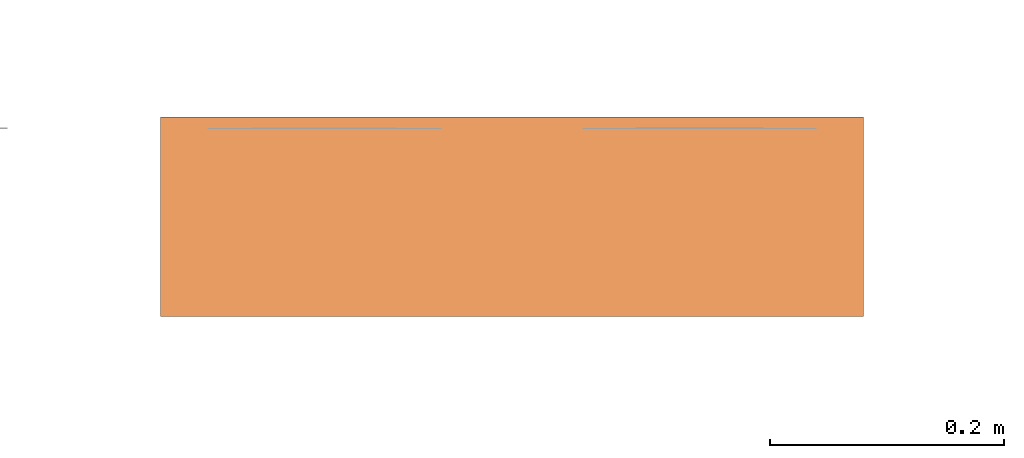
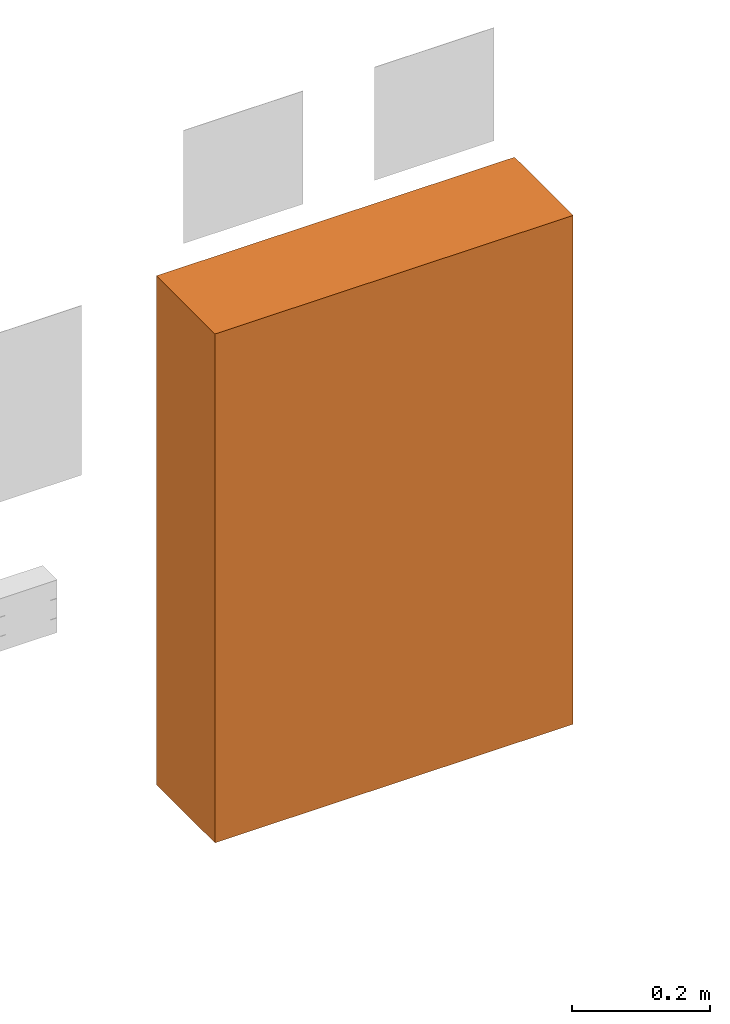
# One storey, part 7 of 119: 1 proxy.
"""IFC2X3 building model written with IfcOpenShell, lengths in metres."""

from ifc_helpers import new_model, entity, si_unit, converted_unit, derived_unit, direction, frame, origin, place, context, subcontext, project, spatial, face_set, surface_model, source, transform, mapped, material, material_list, type_object, type_shapes, element, save


model = new_model("IFC2X3")

# Units and contexts
model_context = context("Model", 3, precision=1e-05, world=origin(), true_north=direction((6.12303176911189e-17, 1.0)))
body_context = subcontext(model_context, "Body", "Model", "MODEL_VIEW")
ifc_project = project(units=[si_unit("LENGTHUNIT", "METRE"), si_unit("AREAUNIT", "SQUARE_METRE"), si_unit("VOLUMEUNIT", "CUBIC_METRE"), converted_unit("PLANEANGLEUNIT", "DEGREE", entity("IfcRatioMeasure", 0.0174532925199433), si_unit("PLANEANGLEUNIT", "RADIAN"), dimensions=[0, 0, 0, 0, 0, 0, 0]), si_unit("MASSUNIT", "GRAM", prefix="KILO"), derived_unit("MASSDENSITYUNIT", [(si_unit("MASSUNIT", "GRAM", prefix="KILO"), 1), (si_unit("LENGTHUNIT", "METRE"), -3)]), derived_unit("MOMENTOFINERTIAUNIT", [(si_unit("LENGTHUNIT", "METRE"), 4)]), si_unit("TIMEUNIT", "SECOND"), si_unit("FREQUENCYUNIT", "HERTZ"), si_unit("THERMODYNAMICTEMPERATUREUNIT", "DEGREE_CELSIUS"), derived_unit("THERMALTRANSMITTANCEUNIT", [(si_unit("MASSUNIT", "GRAM", prefix="KILO"), 1), (si_unit("THERMODYNAMICTEMPERATUREUNIT", "KELVIN"), -1), (si_unit("TIMEUNIT", "SECOND"), -3)]), derived_unit("VOLUMETRICFLOWRATEUNIT", [(si_unit("LENGTHUNIT", "METRE"), 3), (si_unit("TIMEUNIT", "SECOND"), -1)]), si_unit("ELECTRICCURRENTUNIT", "AMPERE"), si_unit("ELECTRICVOLTAGEUNIT", "VOLT"), si_unit("POWERUNIT", "WATT"), si_unit("FORCEUNIT", "NEWTON", prefix="KILO"), si_unit("ILLUMINANCEUNIT", "LUX"), si_unit("LUMINOUSFLUXUNIT", "LUMEN"), si_unit("LUMINOUSINTENSITYUNIT", "CANDELA"), derived_unit("USERDEFINED", [(si_unit("MASSUNIT", "GRAM", prefix="KILO"), -1), (si_unit("LENGTHUNIT", "METRE"), -2), (si_unit("TIMEUNIT", "SECOND"), 3), (si_unit("LUMINOUSFLUXUNIT", "LUMEN"), 1)]), derived_unit("LINEARVELOCITYUNIT", [(si_unit("LENGTHUNIT", "METRE"), 1), (si_unit("TIMEUNIT", "SECOND"), -1)]), si_unit("PRESSUREUNIT", "PASCAL"), derived_unit("USERDEFINED", [(si_unit("LENGTHUNIT", "METRE"), -2), (si_unit("MASSUNIT", "GRAM", prefix="KILO"), 1), (si_unit("TIMEUNIT", "SECOND"), -2)]), derived_unit("LINEARFORCEUNIT", [(si_unit("MASSUNIT", "GRAM", prefix="KILO"), 1), (si_unit("LENGTHUNIT", "METRE"), 1), (si_unit("TIMEUNIT", "SECOND"), -2), (si_unit("LENGTHUNIT", "METRE"), -1)]), derived_unit("PLANARFORCEUNIT", [(si_unit("MASSUNIT", "GRAM", prefix="KILO"), 1), (si_unit("LENGTHUNIT", "METRE"), 1), (si_unit("TIMEUNIT", "SECOND"), -2), (si_unit("LENGTHUNIT", "METRE"), -2)])], contexts=[model_context])

# Site, building, storey
site_placement = place(None, origin())
site = spatial("IfcSite", under=ifc_project, at=site_placement, Name="Default", CompositionType="ELEMENT")
building_placement = place(site_placement, origin())
building = spatial("IfcBuilding", under=site, at=building_placement, CompositionType="ELEMENT")
storey_placement = place(building_placement, origin())
storey = spatial("IfcBuildingStorey", under=building, at=storey_placement, Name="PAV. 01 - TÉRREO", CompositionType="ELEMENT", Elevation=0.0)

# Proxy
ifc_material_1 = material(Name="Pintura branca")
ifc_material_2 = material(Name="Vidro")
ifc_material_3 = material(Name="Pintura Metalica Vermelha")
ifc_material_list_1 = material_list([ifc_material_1, ifc_material_2, ifc_material_3])
ifc_material_list_2 = material_list([ifc_material_3, ifc_material_1])
building_element_proxy_type = type_object("IfcBuildingElementProxyType", Name="Equipamento - E07 - Hidrante:Hidrante simples embutido - requinte 2.1/2 - 38 mm - 30m", PredefinedType="NOTDEFINED", material=ifc_material_list_2)
shared_shape = source(origin(), body_context, "Body", "SurfaceModel", [
    surface_model("IfcFaceBasedSurfaceModel", [(0.234125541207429, 0.00999999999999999, 0.69041529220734), (0.236636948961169, 0.00999999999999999, 0.69041529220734), (0.236636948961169, 0.00999999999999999, 0.710506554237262), (0.234125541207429, 0.00999999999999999, 0.710506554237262), (0.241659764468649, 0.00999999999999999, 0.69041529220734), (0.244171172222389, 0.00999999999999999, 0.69041529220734), (0.244171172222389, 0.00999999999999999, 0.706337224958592), (0.254668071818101, 0.00999999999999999, 0.69041529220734), (0.257356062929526, 0.00999999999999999, 0.69041529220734), (0.257356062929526, 0.00999999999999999, 0.710506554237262), (0.254844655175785, 0.00999999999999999, 0.710506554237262), (0.254844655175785, 0.00999999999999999, 0.69458952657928), (0.244347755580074, 0.00999999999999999, 0.710506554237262), (0.241659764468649, 0.00999999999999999, 0.710506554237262), (0.27587769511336, 0.00999999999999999, 0.697557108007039), (0.273746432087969, 0.00999999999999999, 0.693858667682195), (0.269903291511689, 0.00999999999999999, 0.692612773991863), (0.266437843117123, 0.00999999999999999, 0.693527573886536), (0.264078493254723, 0.00999999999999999, 0.696291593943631), (0.263320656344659, 0.00999999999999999, 0.70061788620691), (0.263960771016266, 0.00999999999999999, 0.704350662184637), (0.2661803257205, 0.00999999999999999, 0.707234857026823), (0.270109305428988, 0.00999999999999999, 0.708309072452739), (0.273503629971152, 0.00999999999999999, 0.707340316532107), (0.275563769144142, 0.00999999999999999, 0.704252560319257), (0.278075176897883, 0.00999999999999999, 0.704850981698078), (0.275237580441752, 0.00999999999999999, 0.709255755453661), (0.270207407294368, 0.00999999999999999, 0.71082048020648), (0.265380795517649, 0.00999999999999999, 0.709611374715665), (0.261998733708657, 0.00999999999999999, 0.706072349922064), (0.260809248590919, 0.00999999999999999, 0.700612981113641), (0.261861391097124, 0.00999999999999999, 0.69524190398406), (0.264927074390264, 0.00999999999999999, 0.69142083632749), (0.270153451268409, 0.00999999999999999, 0.690101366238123), (0.275411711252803, 0.00999999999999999, 0.691845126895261), (0.2783891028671, 0.00999999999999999, 0.696909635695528), (0.289376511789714, 0.00999999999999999, 0.714273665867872), (0.29110310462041, 0.00999999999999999, 0.711762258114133), (0.29361451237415, 0.00999999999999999, 0.711762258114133), (0.290632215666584, 0.00999999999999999, 0.715529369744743), (0.288120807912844, 0.00999999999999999, 0.715529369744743), (0.285452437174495, 0.00999999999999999, 0.711762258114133), (0.287963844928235, 0.00999999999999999, 0.711762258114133), (0.300363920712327, 0.00999999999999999, 0.69041529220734), (0.302875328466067, 0.00999999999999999, 0.69041529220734), (0.302875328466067, 0.00999999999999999, 0.706337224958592), (0.313372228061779, 0.00999999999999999, 0.69041529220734), (0.316060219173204, 0.00999999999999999, 0.69041529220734), (0.316060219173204, 0.00999999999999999, 0.710506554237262), (0.313548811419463, 0.00999999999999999, 0.710506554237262), (0.313548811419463, 0.00999999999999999, 0.69458952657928), (0.303051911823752, 0.00999999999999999, 0.710506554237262), (0.300363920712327, 0.00999999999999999, 0.710506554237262), (0.320455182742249, 0.00999999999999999, 0.69041529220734), (0.327719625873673, 0.00999999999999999, 0.69041529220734), (0.330949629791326, 0.00999999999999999, 0.690758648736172), (0.333350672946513, 0.00999999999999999, 0.691766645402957), (0.335185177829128, 0.00999999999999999, 0.693588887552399), (0.336558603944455, 0.00999999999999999, 0.696514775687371), (0.337093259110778, 0.00999999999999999, 0.70056883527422), (0.336303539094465, 0.00999999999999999, 0.705346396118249), (0.333924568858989, 0.00999999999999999, 0.708779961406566), (0.330971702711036, 0.00999999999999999, 0.71021715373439), (0.32738607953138, 0.00999999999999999, 0.710506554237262), (0.320455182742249, 0.00999999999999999, 0.710506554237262), (0.322966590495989, 0.00999999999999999, 0.692926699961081), (0.322966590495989, 0.00999999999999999, 0.707995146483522), (0.327341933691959, 0.00999999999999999, 0.707995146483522), (0.33090303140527, 0.00999999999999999, 0.707592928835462), (0.333510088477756, 0.00999999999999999, 0.705366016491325), (0.334581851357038, 0.00999999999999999, 0.700608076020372), (0.334034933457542, 0.00999999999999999, 0.696809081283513), (0.332506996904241, 0.00999999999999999, 0.694314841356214), (0.330643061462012, 0.00999999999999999, 0.693289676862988), (0.327410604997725, 0.00999999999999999, 0.692926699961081), (0.340860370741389, 0.00999999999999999, 0.69041529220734), (0.343371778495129, 0.00999999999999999, 0.69041529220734), (0.343371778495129, 0.00999999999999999, 0.710506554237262), (0.340860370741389, 0.00999999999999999, 0.710506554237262), (0.347452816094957, 0.00999999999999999, 0.700196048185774), (0.348600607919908, 0.00999999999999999, 0.695195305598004), (0.351975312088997, 0.00999999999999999, 0.691467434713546), (0.357027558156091, 0.00999999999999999, 0.690101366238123), (0.361890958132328, 0.00999999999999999, 0.691337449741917), (0.365373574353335, 0.00999999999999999, 0.694977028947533), (0.366602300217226, 0.00999999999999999, 0.700426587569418), (0.365434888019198, 0.00999999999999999, 0.705802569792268), (0.362040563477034, 0.00999999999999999, 0.709496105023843), (0.357042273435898, 0.00999999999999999, 0.71082048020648), (0.350130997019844, 0.00999999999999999, 0.708000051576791), (0.349964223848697, 0.00999999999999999, 0.700171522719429), (0.35205869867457, 0.00999999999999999, 0.706432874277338), (0.357056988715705, 0.00999999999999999, 0.708309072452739), (0.360743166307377, 0.00999999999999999, 0.707335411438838), (0.363237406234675, 0.00999999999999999, 0.704591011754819), (0.364090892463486, 0.00999999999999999, 0.700446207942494), (0.362096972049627, 0.00999999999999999, 0.694653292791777), (0.357012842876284, 0.00999999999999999, 0.692612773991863), (0.351972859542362, 0.00999999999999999, 0.694633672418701), (0.281842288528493, 0.00999999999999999, 0.69041529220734), (0.296596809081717, 0.00999999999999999, 0.69041529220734), (0.296596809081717, 0.00999999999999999, 0.692926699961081), (0.284353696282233, 0.00999999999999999, 0.692926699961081), (0.284353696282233, 0.00999999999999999, 0.699519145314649), (0.295655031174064, 0.00999999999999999, 0.699519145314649), (0.295655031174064, 0.00999999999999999, 0.702030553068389), (0.284353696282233, 0.00999999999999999, 0.702030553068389), (0.284353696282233, 0.00999999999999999, 0.707995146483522), (0.296282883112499, 0.00999999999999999, 0.707995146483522), (0.296282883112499, 0.00999999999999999, 0.710506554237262), (0.281842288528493, 0.00999999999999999, 0.710506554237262)], [face_set([[[0, 1, 2, 3]]]), face_set([[[4, 5, 6, 7, 8, 9, 10, 11, 12, 13]]]), face_set([[[14, 15, 16, 17, 18, 19, 20, 21, 22, 23, 24, 25, 26, 27, 28, 29, 30, 31, 32, 33, 34, 35]]]), face_set([[[36, 37, 38, 39, 40, 41, 42]]]), face_set([[[43, 44, 45, 46, 47, 48, 49, 50, 51, 52]]]), face_set([[[53, 54, 55, 56, 57, 58, 59, 60, 61, 62, 63, 64], [65, 66, 67, 68, 69, 70, 71, 72, 73, 74]]]), face_set([[[75, 76, 77, 78]]]), face_set([[[79, 80, 81, 82, 83, 84, 85, 86, 87, 88, 89], [90, 91, 92, 93, 94, 95, 96, 97, 98]]]), face_set([[[99, 100, 101, 102, 103, 104, 105, 106, 107, 108, 109, 110]]])]),
    surface_model("IfcFaceBasedSurfaceModel", [(0.375000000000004, 0.0, 0.700857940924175), (0.372444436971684, 0.0, 0.681446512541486), (0.364951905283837, 0.0, 0.663357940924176), (0.353033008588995, 0.0, 0.647824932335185), (0.337500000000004, 0.0, 0.635906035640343), (0.319411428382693, 0.0, 0.628413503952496), (0.300000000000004, 0.0, 0.625857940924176), (0.280588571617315, 0.0, 0.628413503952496), (0.262500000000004, 0.0, 0.635906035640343), (0.246966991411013, 0.0, 0.647824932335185), (0.235048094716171, 0.0, 0.663357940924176), (0.227555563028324, 0.0, 0.681446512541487), (0.225000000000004, 0.0, 0.700857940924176), (0.227555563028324, 0.0, 0.720269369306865), (0.235048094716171, 0.0, 0.738357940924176), (0.246966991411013, 0.0, 0.753890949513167), (0.262500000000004, 0.0, 0.765809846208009), (0.280588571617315, 0.0, 0.773302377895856), (0.300000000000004, 0.0, 0.775857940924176), (0.319411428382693, 0.0, 0.773302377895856), (0.337500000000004, 0.0, 0.765809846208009), (0.353033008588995, 0.0, 0.753890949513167), (0.364951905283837, 0.0, 0.738357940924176), (0.372444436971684, 0.0, 0.720269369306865), (0.375000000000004, 0.00999999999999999, 0.700857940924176), (0.372444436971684, 0.00999999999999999, 0.681446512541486), (0.364951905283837, 0.00999999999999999, 0.663357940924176), (0.353033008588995, 0.00999999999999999, 0.647824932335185), (0.337500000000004, 0.00999999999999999, 0.635906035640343), (0.319411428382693, 0.00999999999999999, 0.628413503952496), (0.300000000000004, 0.00999999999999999, 0.625857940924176), (0.280588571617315, 0.00999999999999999, 0.628413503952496), (0.262500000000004, 0.00999999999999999, 0.635906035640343), (0.246966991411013, 0.00999999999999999, 0.647824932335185), (0.235048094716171, 0.00999999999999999, 0.663357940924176), (0.227555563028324, 0.00999999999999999, 0.681446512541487), (0.225000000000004, 0.00999999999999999, 0.700857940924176), (0.227555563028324, 0.00999999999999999, 0.720269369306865), (0.235048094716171, 0.00999999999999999, 0.738357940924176), (0.246966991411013, 0.00999999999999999, 0.753890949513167), (0.262500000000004, 0.00999999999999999, 0.765809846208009), (0.280588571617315, 0.00999999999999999, 0.773302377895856), (0.300000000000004, 0.00999999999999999, 0.775857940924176), (0.319411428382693, 0.00999999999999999, 0.773302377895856), (0.337500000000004, 0.00999999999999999, 0.765809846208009), (0.353033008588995, 0.00999999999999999, 0.753890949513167), (0.364951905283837, 0.00999999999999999, 0.738357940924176), (0.372444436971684, 0.00999999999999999, 0.720269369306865)], [face_set([[[0, 1, 2, 3, 4, 5, 6, 7, 8, 9, 10, 11, 12, 13, 14, 15, 16, 17, 18, 19, 20, 21, 22, 23]], [[24, 25, 26, 27, 28, 29, 30, 31, 32, 33, 34, 35, 36, 37, 38, 39, 40, 41, 42, 43, 44, 45, 46, 47]], [[36, 35, 11, 12]], [[35, 34, 10, 11]], [[33, 32, 8, 9]], [[34, 33, 9, 10]], [[32, 31, 7, 8]], [[6, 7, 31, 30]], [[30, 29, 5, 6]], [[29, 28, 4, 5]], [[27, 26, 2, 3]], [[28, 27, 3, 4]], [[26, 25, 1, 2]], [[0, 1, 25, 24]], [[24, 47, 23, 0]], [[47, 46, 22, 23]], [[45, 44, 20, 21]], [[46, 45, 21, 22]], [[44, 43, 19, 20]], [[18, 19, 43, 42]], [[42, 41, 17, 18]], [[41, 40, 16, 17]], [[39, 38, 14, 15]], [[40, 39, 15, 16]], [[38, 37, 13, 14]], [[12, 13, 37, 36]]])]),
    surface_model("IfcFaceBasedSurfaceModel", [(0.567500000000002, 0.0, 0.868357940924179), (0.567500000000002, 0.0, 0.0333579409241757), (0.032500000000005, 0.0, 0.0333579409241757), (0.032500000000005, 0.0, 0.868357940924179), (0.375000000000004, 0.0, 0.700857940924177), (0.372444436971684, 0.0, 0.681446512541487), (0.364951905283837, 0.0, 0.663357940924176), (0.353033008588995, 0.0, 0.647824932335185), (0.337500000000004, 0.0, 0.635906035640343), (0.319411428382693, 0.0, 0.628413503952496), (0.300000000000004, 0.0, 0.625857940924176), (0.280588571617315, 0.0, 0.628413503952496), (0.262500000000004, 0.0, 0.635906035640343), (0.246966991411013, 0.0, 0.647824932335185), (0.235048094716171, 0.0, 0.663357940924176), (0.227555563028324, 0.0, 0.681446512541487), (0.225000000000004, 0.0, 0.700857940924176), (0.227555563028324, 0.0, 0.720269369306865), (0.235048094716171, 0.0, 0.738357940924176), (0.246966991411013, 0.0, 0.753890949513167), (0.262500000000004, 0.0, 0.765809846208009), (0.280588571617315, 0.0, 0.773302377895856), (0.300000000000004, 0.0, 0.775857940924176), (0.319411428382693, 0.0, 0.773302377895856), (0.337500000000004, 0.0, 0.765809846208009), (0.353033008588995, 0.0, 0.753890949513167), (0.364951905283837, 0.0, 0.738357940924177), (0.372444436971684, 0.0, 0.720269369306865), (0.285000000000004, 0.0, 0.162857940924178), (0.220000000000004, 0.0, 0.162857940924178), (0.220000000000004, 0.0, 0.160857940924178), (0.285000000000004, 0.0, 0.160857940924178), (0.285000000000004, 0.0, 0.122857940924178), (0.220000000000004, 0.0, 0.122857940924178), (0.220000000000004, 0.0, 0.120857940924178), (0.285000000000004, 0.0, 0.120857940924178), (0.285000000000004, 0.0, 0.142857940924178), (0.220000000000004, 0.0, 0.142857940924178), (0.220000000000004, 0.0, 0.140857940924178), (0.285000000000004, 0.0, 0.140857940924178), (0.380000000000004, 0.0, 0.162857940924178), (0.315000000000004, 0.0, 0.162857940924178), (0.315000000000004, 0.0, 0.160857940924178), (0.380000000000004, 0.0, 0.160857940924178), (0.380000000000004, 0.0, 0.122857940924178), (0.315000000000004, 0.0, 0.122857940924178), (0.315000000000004, 0.0, 0.120857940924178), (0.380000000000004, 0.0, 0.120857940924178), (0.380000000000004, 0.0, 0.142857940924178), (0.315000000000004, 0.0, 0.142857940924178), (0.315000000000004, 0.0, 0.140857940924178), (0.380000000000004, 0.0, 0.140857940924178), (0.567500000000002, 0.00999999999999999, 0.868357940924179), (0.567500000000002, 0.00999999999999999, 0.0333579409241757), (0.032500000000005, 0.00999999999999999, 0.0333579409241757), (0.032500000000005, 0.00999999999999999, 0.868357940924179), (0.375000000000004, 0.00999999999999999, 0.700857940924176), (0.372444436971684, 0.00999999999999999, 0.681446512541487), (0.364951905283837, 0.00999999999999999, 0.663357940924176), (0.353033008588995, 0.00999999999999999, 0.647824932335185), (0.337500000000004, 0.00999999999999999, 0.635906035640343), (0.319411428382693, 0.00999999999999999, 0.628413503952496), (0.300000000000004, 0.00999999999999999, 0.625857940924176), (0.280588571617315, 0.00999999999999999, 0.628413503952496), (0.262500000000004, 0.00999999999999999, 0.635906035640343), (0.246966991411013, 0.00999999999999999, 0.647824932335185), (0.235048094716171, 0.00999999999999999, 0.663357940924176), (0.227555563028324, 0.00999999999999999, 0.681446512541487), (0.225000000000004, 0.00999999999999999, 0.700857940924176), (0.227555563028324, 0.00999999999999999, 0.720269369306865), (0.235048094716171, 0.00999999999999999, 0.738357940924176), (0.246966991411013, 0.00999999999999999, 0.753890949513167), (0.262500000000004, 0.00999999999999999, 0.765809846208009), (0.280588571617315, 0.00999999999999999, 0.773302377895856), (0.300000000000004, 0.00999999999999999, 0.775857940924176), (0.319411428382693, 0.00999999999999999, 0.773302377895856), (0.337500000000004, 0.00999999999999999, 0.765809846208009), (0.353033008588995, 0.00999999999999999, 0.753890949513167), (0.364951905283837, 0.00999999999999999, 0.738357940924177), (0.372444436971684, 0.00999999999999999, 0.720269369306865), (0.285000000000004, 0.00999999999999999, 0.162857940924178), (0.220000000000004, 0.00999999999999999, 0.162857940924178), (0.220000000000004, 0.00999999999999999, 0.160857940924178), (0.285000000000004, 0.00999999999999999, 0.160857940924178), (0.285000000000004, 0.00999999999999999, 0.122857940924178), (0.220000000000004, 0.00999999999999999, 0.122857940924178), (0.220000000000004, 0.00999999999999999, 0.120857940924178), (0.285000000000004, 0.00999999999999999, 0.120857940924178), (0.285000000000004, 0.00999999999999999, 0.142857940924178), (0.220000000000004, 0.00999999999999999, 0.142857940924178), (0.220000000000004, 0.00999999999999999, 0.140857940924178), (0.285000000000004, 0.00999999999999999, 0.140857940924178), (0.380000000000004, 0.00999999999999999, 0.162857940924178), (0.315000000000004, 0.00999999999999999, 0.162857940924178), (0.315000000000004, 0.00999999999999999, 0.160857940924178), (0.380000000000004, 0.00999999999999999, 0.160857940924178), (0.380000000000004, 0.00999999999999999, 0.122857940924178), (0.315000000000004, 0.00999999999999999, 0.122857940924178), (0.315000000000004, 0.00999999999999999, 0.120857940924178), (0.380000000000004, 0.00999999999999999, 0.120857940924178), (0.380000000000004, 0.00999999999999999, 0.142857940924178), (0.315000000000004, 0.00999999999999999, 0.142857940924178), (0.315000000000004, 0.00999999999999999, 0.140857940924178), (0.380000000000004, 0.00999999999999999, 0.140857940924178), (0.010000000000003, 0.160000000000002, 0.890857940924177), (0.010000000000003, 0.160000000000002, 0.0108579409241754), (0.590000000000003, 0.160000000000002, 0.0108579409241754), (0.590000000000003, 0.160000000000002, 0.890857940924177), (0.6, 0.170000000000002, 0.900857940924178), (0.0, 0.170000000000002, 0.900857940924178), (0.0, 0.170000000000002, 0.0), (0.6, 0.170000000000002, 0.0), (0.6, 0.0, 0.900857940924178), (0.0, 0.0, 0.900857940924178), (0.0, 0.0, 0.0), (0.6, 0.0, 0.0), (0.010000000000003, 0.0100000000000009, 0.0108579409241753), (0.010000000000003, 0.0100000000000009, 0.890857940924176), (0.590000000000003, 0.0100000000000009, 0.890857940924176), (0.590000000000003, 0.0100000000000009, 0.0108579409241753), (0.5675, 0.0, 0.868357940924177), (0.5675, 0.0, 0.0333579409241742), (0.0325000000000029, 0.0, 0.0333579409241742), (0.0325000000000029, 0.0, 0.868357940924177), (0.5675, 0.0100000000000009, 0.868357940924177), (0.5675, 0.0100000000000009, 0.0333579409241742), (0.0325000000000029, 0.0100000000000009, 0.0333579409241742), (0.0325000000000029, 0.0100000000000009, 0.868357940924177)], [face_set([[[0, 1, 2, 3], [4, 5, 6, 7, 8, 9, 10, 11, 12, 13, 14, 15, 16, 17, 18, 19, 20, 21, 22, 23, 24, 25, 26, 27], [28, 29, 30, 31], [32, 33, 34, 35], [36, 37, 38, 39], [40, 41, 42, 43], [44, 45, 46, 47], [48, 49, 50, 51]], [[52, 53, 54, 55], [56, 57, 58, 59, 60, 61, 62, 63, 64, 65, 66, 67, 68, 69, 70, 71, 72, 73, 74, 75, 76, 77, 78, 79], [80, 81, 82, 83], [84, 85, 86, 87], [88, 89, 90, 91], [92, 93, 94, 95], [96, 97, 98, 99], [100, 101, 102, 103]], [[0, 1, 53, 52]], [[1, 2, 54, 53]], [[2, 54, 55, 3]], [[3, 55, 52, 0]], [[69, 17, 18, 70]], [[68, 16, 17, 69]], [[72, 20, 21, 73]], [[71, 19, 20, 72]], [[70, 18, 19, 71]], [[22, 74, 73, 21]], [[76, 24, 25, 77]], [[75, 23, 24, 76]], [[79, 27, 4, 56]], [[78, 26, 27, 79]], [[77, 25, 26, 78]], [[74, 22, 23, 75]], [[56, 4, 5, 57]], [[58, 6, 5, 57]], [[60, 8, 7, 59]], [[59, 7, 6, 58]], [[61, 9, 8, 60]], [[9, 61, 62, 10]], [[64, 12, 11, 63]], [[65, 13, 12, 64]], [[67, 15, 14, 66]], [[66, 14, 13, 65]], [[67, 15, 16, 68]], [[63, 11, 10, 62]], [[31, 83, 80, 28]], [[30, 82, 83, 31]], [[29, 30, 82, 81]], [[28, 29, 81, 80]], [[35, 87, 84, 32]], [[34, 86, 87, 35]], [[33, 34, 86, 85]], [[32, 33, 85, 84]], [[39, 91, 88, 36]], [[38, 90, 91, 39]], [[37, 38, 90, 89]], [[36, 37, 89, 88]], [[43, 95, 92, 40]], [[42, 94, 95, 43]], [[41, 42, 94, 93]], [[40, 41, 93, 92]], [[47, 99, 96, 44]], [[46, 98, 99, 47]], [[45, 46, 98, 97]], [[44, 45, 97, 96]], [[51, 103, 100, 48]], [[50, 102, 103, 51]], [[49, 50, 102, 101]], [[48, 49, 101, 100]]]), face_set([[[104, 105, 106, 107]], [[108, 109, 110, 111]], [[108, 112, 113, 109]], [[113, 109, 110, 114]], [[114, 110, 111, 115]], [[115, 111, 108, 112]], [[116, 105, 104, 117]], [[117, 104, 107, 118]], [[118, 119, 106, 107]], [[105, 106, 119, 116]], [[112, 113, 114, 115], [120, 121, 122, 123]], [[116, 119, 118, 117], [124, 125, 126, 127]], [[121, 125, 124, 120]], [[122, 126, 125, 121]], [[123, 122, 126, 127]], [[120, 123, 127, 124]]])]),
])
type_shapes(building_element_proxy_type, [shared_shape])
proxy_placement = place(storey_placement, frame((27.6740605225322, -5.40661806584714, 0.850000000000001), z_axis=(0.0, 0.0, 1.0), x_axis=(-1.0, 0.0, 0.0)))
element("IfcBuildingElementProxy", 1, at=proxy_placement, inside=storey, type_object=building_element_proxy_type, material=ifc_material_list_1, Name="Equipamento - E07 - Hidrante:Hidrante simples embutido - requinte 2.1/2 - 38 mm - 30m", ObjectType="Equipamento - E07 - Hidrante:Hidrante simples embutido - requinte 2.1/2 - 38 mm - 30m", context=body_context, shape_type="MappedRepresentation", body=[
    mapped(shared_shape, transform((0.0, 0.0, 0.0), scale=1.0)),
])

save(model, "model.ifc")
